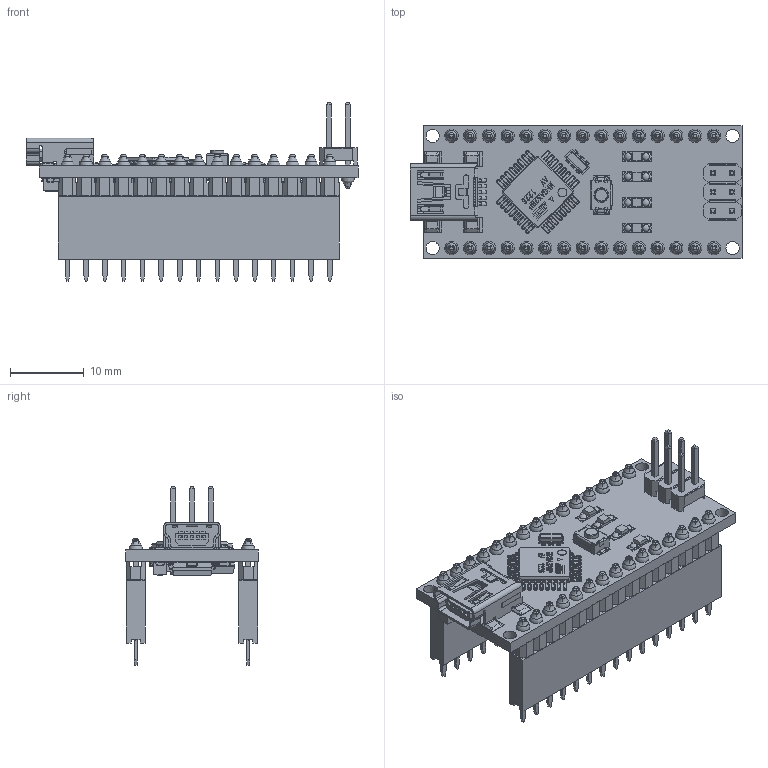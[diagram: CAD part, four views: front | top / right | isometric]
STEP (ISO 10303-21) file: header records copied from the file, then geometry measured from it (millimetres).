
FILE_DESCRIPTION(('CAx-IF Rec.Pracs.---Model Styling and Organization---1.5---2016-08-15','CAx-IF Rec.Pracs.---Geometric and Assembly Validation Properties---4.4---2016-08-17','CAx-IF Rec.Pracs.---User Defined Attributes---1.5---2016-08-15','CAx-IF Rec.Pracs.---External References---2.1---2005-01-19'),'2;1');
FILE_NAME('Arduino Nano_pbs_simplified.step','2020-07-25T18:48:22',('Unspecified'),('Unspecified'),'CAD Exchanger 3.8.0 (cadexchanger.com)','Unspecified','');
FILE_SCHEMA(('AUTOMOTIVE_DESIGN { 1 0 10303 214 1 1 1 1 }'));
Length unit declared in the file: millimetre
Products named in the file (25): Arduino Nano; arduino nano; NANO DIODE; 189 RESISTOR PACK; 102 RESISTOR PACK; atmega328; ftdi FT232rl; smt_resistor222; led; 16mhz crystal - measured; MINIUSB - MEASURED; MINIUSBSHELL; MINIUSBCORE; MINI USB CONTACT; MINI USB SOLDER; cap106C; reset button; reset core; reset shell; nano - reg; nano-board; Soldering-3x2; PLD (DS1021 CONNFLY); PLS (DS1021 CONNFLY); PBS (DS1023 CONNFLY)
Assembly tree (38 placements, depth 4):
  Arduino Nano
    arduino nano
      NANO DIODE
      189 RESISTOR PACK
      102 RESISTOR PACK
      atmega328
      ftdi FT232rl
      smt_resistor222  x5
      led  x4
      16mhz crystal - measured
      MINIUSB - MEASURED
        MINIUSBSHELL
        MINIUSBCORE
        MINI USB CONTACT  x5
        MINI USB SOLDER
      cap106C  x2
      reset button
        reset core
        reset shell
      nano - reg
    nano-board
    Soldering-3x2
    PLD (DS1021 CONNFLY)
    PLS (DS1021 CONNFLY)  x2
    PBS (DS1023 CONNFLY)  x2
Bounding box: 45 x 18 x 24.21 mm (x, y, z)
Volume: 3614.9 mm3; surface area: 9663.4 mm2
Topology: 70 solids, 70 shells, 7649 faces, 20030 edges, 12782 vertices
Faces by surface type: plane 5097, cylinder 1428, torus 569, bspline 489, sphere 58, revolution 6, cone 2
Full cylindrical faces by diameter (mm): 0.5 x4, 0.8 x4, 0.9 x30, 1 x6, 1.02 x1, 1.2 x1, 1.8 x5, 2 x1
Entity records: 247425 total; most frequent: CARTESIAN_POINT 58203, ORIENTED_EDGE 30558, DIRECTION 27637, EDGE_CURVE 15279, LINE 10699, VECTOR 10699, VERTEX_POINT 9812, AXIS2_PLACEMENT_3D 8466
